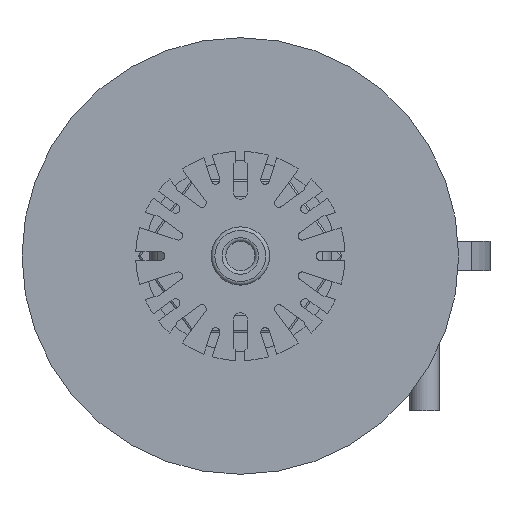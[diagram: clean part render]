
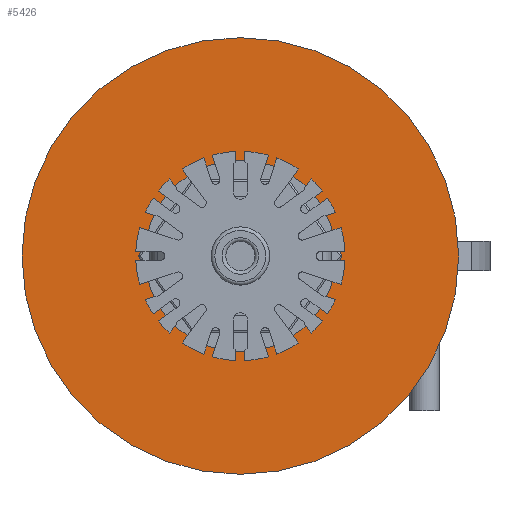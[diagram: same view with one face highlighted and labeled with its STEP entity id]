
A CAD part, front view. The second image highlights one B-rep face of the part: STEP entity #5426.
In plain terms, the highlighted planar face has unit normal (0, -1, 0).
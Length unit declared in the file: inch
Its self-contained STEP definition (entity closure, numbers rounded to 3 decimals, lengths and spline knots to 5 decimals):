
#1090=FACE_BOUND('',#1419,.T.);
#1123=FACE_OUTER_BOUND('',#1418,.T.);
#1418=EDGE_LOOP('',(#3423,#3424));
#1419=EDGE_LOOP('',(#3425,#3426));
#1744=CIRCLE('',#5826,0.6575);
#1747=CIRCLE('',#5829,0.6575);
#1748=CIRCLE('',#5831,1.5);
#1749=CIRCLE('',#5832,1.5);
#2062=VERTEX_POINT('',#8124);
#2063=VERTEX_POINT('',#8125);
#2066=VERTEX_POINT('',#8134);
#2067=VERTEX_POINT('',#8135);
#2595=EDGE_CURVE('',#2062,#2063,#1744,.T.);
#2599=EDGE_CURVE('',#2063,#2062,#1747,.T.);
#2600=EDGE_CURVE('',#2066,#2067,#1748,.T.);
#2601=EDGE_CURVE('',#2067,#2066,#1749,.T.);
#3423=ORIENTED_EDGE('',*,*,#2600,.T.);
#3424=ORIENTED_EDGE('',*,*,#2601,.T.);
#3425=ORIENTED_EDGE('',*,*,#2595,.F.);
#3426=ORIENTED_EDGE('',*,*,#2599,.F.);
#4980=PLANE('',#5835);
#5426=ADVANCED_FACE('',(#1123,#1090),#4980,.T.);
#5826=AXIS2_PLACEMENT_3D('',#8126,#6472,#6473);
#5829=AXIS2_PLACEMENT_3D('',#8132,#6479,#6480);
#5831=AXIS2_PLACEMENT_3D('',#8136,#6483,#6484);
#5832=AXIS2_PLACEMENT_3D('',#8137,#6485,#6486);
#5835=AXIS2_PLACEMENT_3D('',#8143,#6492,#6493);
#6472=DIRECTION('center_axis',(0.,-1.,0.));
#6473=DIRECTION('ref_axis',(1.,0.,0.));
#6479=DIRECTION('center_axis',(0.,-1.,0.));
#6480=DIRECTION('ref_axis',(1.,0.,0.));
#6483=DIRECTION('center_axis',(0.,-1.,0.));
#6484=DIRECTION('ref_axis',(1.,0.,0.));
#6485=DIRECTION('center_axis',(0.,-1.,0.));
#6486=DIRECTION('ref_axis',(1.,0.,0.));
#6492=DIRECTION('center_axis',(0.,-1.,0.));
#6493=DIRECTION('ref_axis',(-1.,0.,0.));
#8124=CARTESIAN_POINT('',(-0.6575,1.75,0.));
#8125=CARTESIAN_POINT('',(0.6575,1.75,0.));
#8126=CARTESIAN_POINT('Origin',(0.,1.75,0.));
#8132=CARTESIAN_POINT('Origin',(0.,1.75,0.));
#8134=CARTESIAN_POINT('',(-1.5,1.75,0.));
#8135=CARTESIAN_POINT('',(1.5,1.75,0.));
#8136=CARTESIAN_POINT('Origin',(0.,1.75,0.));
#8137=CARTESIAN_POINT('Origin',(0.,1.75,0.));
#8143=CARTESIAN_POINT('Origin',(-0.6575,1.75,0.));
